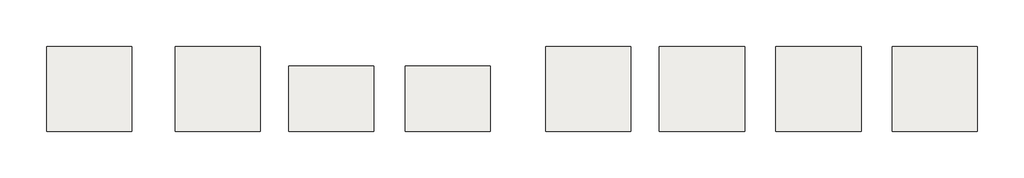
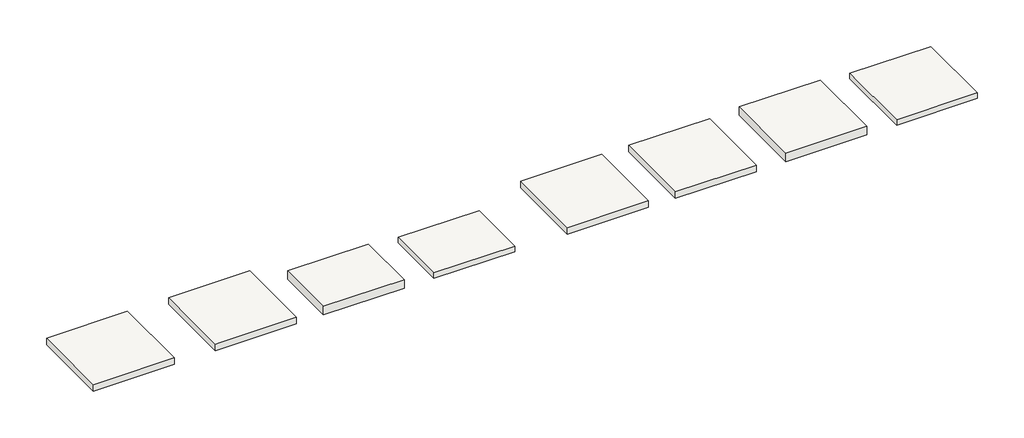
# One storey: 8 roofs.
"""IFC4 building model written with IfcOpenShell, lengths in millimetres."""

from ifc_helpers import new_model, si_unit, frame, origin, place, context, project, spatial, polyline, outline, extrude, element, save

model = new_model("IFC4")

# Units and contexts
model_context = context("Model", 3, world=origin())
ifc_project = project(units=[si_unit("LENGTHUNIT", "METRE", prefix="MILLI")], contexts=[model_context])

# Site, building, storey
site = spatial("IfcSite", under=ifc_project)
building = spatial("IfcBuilding", under=site)
storey = spatial("IfcBuildingStorey", under=building, Name="Magna-Loc 180", Elevation=914.4)

# Roofs
placement = place(None, origin())
element("IfcRoof", 1, ObjectType="Magna-Loc 180 16\" OC - Steel Framing", at=placement, inside=storey, context=model_context, shape_type="SweptSolid", body=[
    extrude(outline(polyline([(-9173.4157651, 18941.3817436), (-6125.4157651, 18941.3817436), (-6125.4157651, 16604.5817436), (-9173.4157651, 16604.5817436), (-9173.4157651, 18941.3817436)])), frame((0.0, 0.0, 914.4), z_axis=(0.0, 0.0, 1.0), x_axis=(1.0, 0.0, 0.0)), (0.0, 0.0, 1.0), 336.55),
])
element("IfcRoof", 2, ObjectType="Magna-Loc 180 16\" OC - Wood Framing", at=placement, inside=storey, context=model_context, shape_type="SweptSolid", body=[
    extrude(outline(polyline([(-17838.4406979, 19652.5817436), (-14790.4406979, 19652.5817436), (-14790.4406979, 16604.5817436), (-17838.4406979, 16604.5817436), (-17838.4406979, 19652.5817436)])), frame((0.0, 0.0, 914.4), z_axis=(0.0, 0.0, 1.0), x_axis=(1.0, 0.0, 0.0)), (0.0, 0.0, 1.0), 257.175),
])
element("IfcRoof", 3, ObjectType="Magna-Loc 180 18\" OC - Steel Framing", at=placement, inside=storey, context=model_context, shape_type="SweptSolid", body=[
    extrude(outline(polyline([(8250.9842349, 19652.5817436), (11298.9842349, 19652.5817436), (11298.9842349, 16604.5817436), (8250.9842349, 16604.5817436), (8250.9842349, 19652.5817436)])), frame((0.0, 0.0, 914.4), z_axis=(0.0, 0.0, 1.0), x_axis=(1.0, 0.0, 0.0)), (0.0, 0.0, 1.0), 336.55),
])
element("IfcRoof", 4, ObjectType="Magna-Loc 180 18\" OC - Wood Framing", at=placement, inside=storey, context=model_context, shape_type="SweptSolid", body=[
    extrude(outline(polyline([(4085.3842349, 19652.5817436), (7133.3842349, 19652.5817436), (7133.3842349, 16604.5817436), (4085.3842349, 16604.5817436), (4085.3842349, 19652.5817436)])), frame((0.0, 0.0, 914.4), z_axis=(0.0, 0.0, 1.0), x_axis=(1.0, 0.0, 0.0)), (0.0, 0.0, 1.0), 257.175),
])
element("IfcRoof", 5, ObjectType="Magna-Loc 180 16\" OC - Steel Deck", at=placement, inside=storey, context=model_context, shape_type="SweptSolid", body=[
    extrude(outline(polyline([(-5007.8157651, 18941.3817436), (-1959.8157651, 18941.3817436), (-1959.8157651, 16604.5817436), (-5007.8157651, 16604.5817436), (-5007.8157651, 18941.3817436)])), frame((0.0, 0.0, 914.4), z_axis=(0.0, 0.0, 1.0), x_axis=(1.0, 0.0, 0.0)), (0.0, 0.0, 1.0), 212.725),
])
element("IfcRoof", 6, ObjectType="Magna-Loc 180 18\" OC - Steel Deck", at=placement, inside=storey, context=model_context, shape_type="SweptSolid", body=[
    extrude(outline(polyline([(12416.5842349, 19652.5817436), (15464.5842349, 19652.5817436), (15464.5842349, 16604.5817436), (12416.5842349, 16604.5817436), (12416.5842349, 19652.5817436)])), frame((0.0, 0.0, 914.4), z_axis=(0.0, 0.0, 1.0), x_axis=(1.0, 0.0, 0.0)), (0.0, 0.0, 1.0), 212.725),
])
element("IfcRoof", 7, ObjectType="Magna-Loc 180 16\" OC - Solid Substrate", at=placement, inside=storey, context=model_context, shape_type="SweptSolid", body=[
    extrude(outline(polyline([(-13237.4157651, 19652.5817436), (-10189.4157651, 19652.5817436), (-10189.4157651, 16604.5817436), (-13237.4157651, 16604.5817436), (-13237.4157651, 19652.5817436)])), frame((0.0, 0.0, 914.4), z_axis=(0.0, 0.0, 1.0), x_axis=(1.0, 0.0, 0.0)), (0.0, 0.0, 1.0), 257.175),
])
element("IfcRoof", 8, ObjectType="Magna-Loc 180 18\" OC - Solid Substrate", at=placement, inside=storey, context=model_context, shape_type="SweptSolid", body=[
    extrude(outline(polyline([(21.3842349, 19652.5817436), (3069.3842349, 19652.5817436), (3069.3842349, 16604.5817436), (21.3842349, 16604.5817436), (21.3842349, 19652.5817436)])), frame((0.0, 0.0, 914.4), z_axis=(0.0, 0.0, 1.0), x_axis=(1.0, 0.0, 0.0)), (0.0, 0.0, 1.0), 257.175),
])

save(model, "model.ifc")
